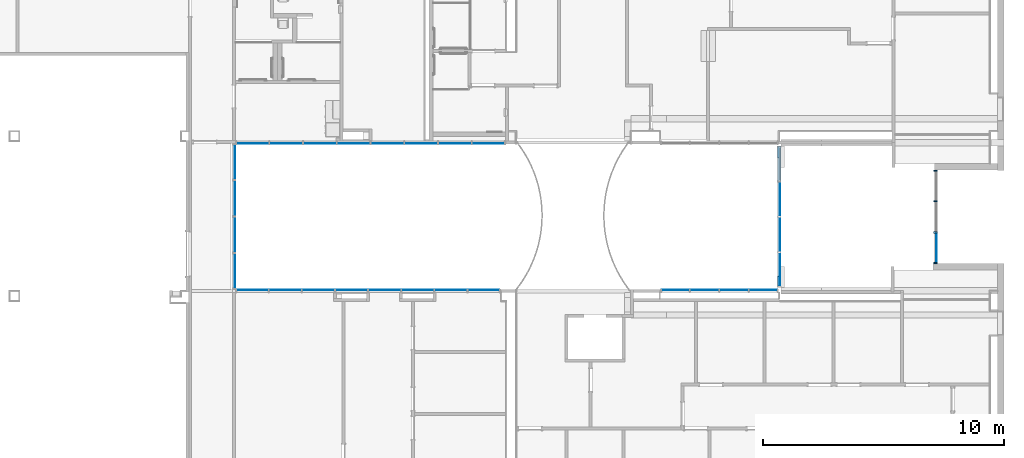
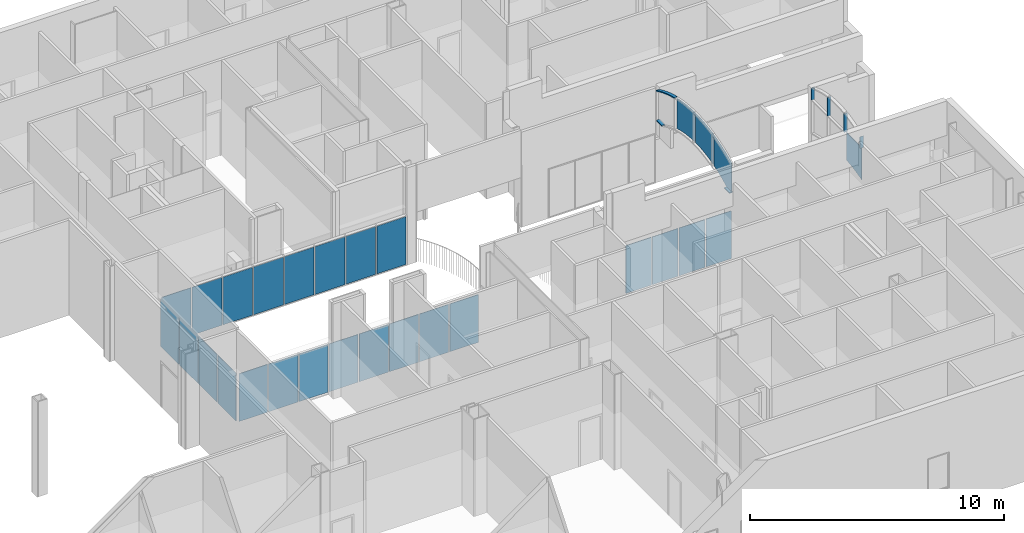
# One storey, part 4 of 45: 28 plates, 7 members, 6 elements without a shape of their own.
"""IFC2X3 building model written with IfcOpenShell, lengths in metres."""

from ifc_helpers import new_model, entity, si_unit, converted_unit, frame, frame_2d, origin, origin_2d_with_axis, place, context, project, spatial, polyline, circle_curve, parameter, trimmed, segment, composite_curve, rectangle, outline, extrude, source, transform, mapped, material, type_object, type_shapes, element, aggregate, save


model = new_model("IFC2X3")

# Units and contexts
model_context = context("Model", 3, precision=1e-09, world=origin())
plan_context = context("Plan", 3, precision=1e-09, world=origin())
ifc_project = project(units=[si_unit("LENGTHUNIT", "METRE"), si_unit("AREAUNIT", "SQUARE_METRE"), si_unit("VOLUMEUNIT", "CUBIC_METRE"), converted_unit("PLANEANGLEUNIT", "DEGREE", entity("IfcRatioMeasure", 0.01745329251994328), si_unit("PLANEANGLEUNIT", "RADIAN"), dimensions=[0, 0, 0, 0, 0, 0, 0]), si_unit("TIMEUNIT", "SECOND")], contexts=[model_context, plan_context])

# Site, building, storey
site_placement = place(None, origin())
site = spatial("IfcSite", under=ifc_project, at=site_placement, Name="Default", CompositionType="ELEMENT")
building_placement = place(site_placement, origin())
building = spatial("IfcBuilding", under=site, at=building_placement, CompositionType="ELEMENT")
storey_placement = place(building_placement, frame((0.0, 0.0, 4.570000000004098)))
storey = spatial("IfcBuildingStorey", under=building, at=storey_placement, Name="Second Floor", CompositionType="ELEMENT", Elevation=4.570000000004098)

# Curtain wall, member
curtain_wall_1_placement = place(storey_placement, origin())
curtain_wall_1 = element("IfcCurtainWall", 1, at=curtain_wall_1_placement, inside=storey, Name="Curtain Wall:Storefront", ObjectType="Curtain Wall:Storefront")
ifc_material_1 = material(Name="Metal - Aluminium")
member_type_1 = type_object("IfcMemberType", Name="50 x 150mm", PredefinedType="MULLION")
shared_shape_1 = source(origin(), model_context, "Body", "SweptSolid", [
    extrude(outline(polyline([(-0.2900392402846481, -0.025), (0.2739732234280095, -0.025), (0.2739732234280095, 0.025), (-0.2579072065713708, 0.025), (-0.2900392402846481, -0.025)])), frame((-0.025, -0.07499999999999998, -0.2900392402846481), z_axis=(0.0, 1.0, 0.0), x_axis=(0.0, 0.0, -1.0)), (0.0, 0.0, 1.0), 0.15),
])
type_shapes(member_type_1, [shared_shape_1])
member_1_placement = place(storey_placement, frame((-2.454499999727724, 33.62999999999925, 2.964012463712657), z_axis=(0.0, 0.0, 1.0), x_axis=(0.0, 1.0, 0.0)))
member_1 = element("IfcMember", 2, at=member_1_placement, type_object=member_type_1, material=ifc_material_1, Name="Rectangular Mullion:50 x 150mm:50 x 150mm", ObjectType="50 x 150mm", context=model_context, shape_type="MappedRepresentation", body=[
    mapped(shared_shape_1, transform((0.0, 0.0, 0.0), scale=1.0)),
])

# Curtain wall, members
curtain_wall_2_placement = place(storey_placement, origin())
curtain_wall_2 = element("IfcCurtainWall", 3, at=curtain_wall_2_placement, inside=storey, Name="Curtain Wall:Storefront", ObjectType="Curtain Wall:Storefront")
member_type_2 = type_object("IfcMemberType", Name="50 x 150mm", PredefinedType="MULLION")
shared_shape_2 = source(origin(), model_context, "Body", "SweptSolid", [
    extrude(outline(composite_curve([segment(trimmed(circle_curve(frame_2d((5.012852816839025, 3.985204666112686), x_axis=(-0.7029639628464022, -0.7112254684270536)), 6.475000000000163), [parameter(346.1634926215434)], [parameter(359.9999999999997)], True, "PARAMETER"), True, "CONTINUOUS"), segment(polyline([(0.4611611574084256, -0.6199802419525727), (0.4963093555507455, -0.5844189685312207)]), True, "CONTINUOUS"), segment(trimmed(circle_curve(frame_2d((5.012852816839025, 3.985204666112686), x_axis=(-0.7029639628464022, -0.7112254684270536)), 6.425000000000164), [parameter(346.4371113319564)], [parameter(359.9999999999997)], True, "PARAMETER"), False, "CONTINUOUS"), segment(polyline([(-0.4493721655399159, 0.6021996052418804), (-0.508098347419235, 0.6021996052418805)]), True, "CONTINUOUS")], self_intersect=False)), frame((-0.1167660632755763, -0.07499999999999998, -0.7638133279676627), z_axis=(0.0, -1.0, 0.0), x_axis=(-0.7029639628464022, 0.0, 0.7112254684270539)), (0.0, 0.0, -1.0), 0.15),
])
type_shapes(member_type_2, [shared_shape_2])
member_2_placement = place(storey_placement, frame((-8.94599995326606, 33.16499999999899, 5.054744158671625), z_axis=(0.0, -0.9737099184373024, 0.2277915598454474), x_axis=(0.0, 0.2277915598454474, 0.9737099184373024)))
member_2 = element("IfcMember", 4, at=member_2_placement, type_object=member_type_2, material=ifc_material_1, Name="Rectangular Mullion:50 x 150mm:50 x 150mm", ObjectType="50 x 150mm", context=model_context, shape_type="MappedRepresentation", body=[
    mapped(shared_shape_2, transform((0.0, 0.0, 0.0), scale=1.0)),
])
member_type_3 = type_object("IfcMemberType", Name="50 x 150mm", PredefinedType="MULLION")
shared_shape_3 = source(origin(), model_context, "Body", "SweptSolid", [
    extrude(outline(polyline([(-0.218101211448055, -0.025), (0.2246902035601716, -0.025), (0.2115122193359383, 0.025), (-0.218101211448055, 0.025), (-0.218101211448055, -0.025)])), frame((-0.025, -0.07499999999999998, -0.2181012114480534), z_axis=(0.0, 1.0, 0.0), x_axis=(0.0, 0.0, -1.0)), (0.0, 0.0, 1.0), 0.15),
])
type_shapes(member_type_3, [shared_shape_3])
member_3_placement = place(storey_placement, frame((-8.945999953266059, 34.57999999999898, 3.069999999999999), z_axis=(0.0, 1.0, 0.0), x_axis=(0.0, 0.0, -1.0)))
member_3 = element("IfcMember", 5, at=member_3_placement, type_object=member_type_3, material=ifc_material_1, Name="Rectangular Mullion:50 x 150mm:50 x 150mm", ObjectType="50 x 150mm", context=model_context, shape_type="MappedRepresentation", body=[
    mapped(shared_shape_3, transform((0.0, 0.0, 0.0), scale=1.0)),
])

# Member
member_type_4 = type_object("IfcMemberType", Name="50 x 150mm", PredefinedType="MULLION")
shared_shape_4 = source(origin(), model_context, "Body", "SweptSolid", [
    extrude(outline(composite_curve([segment(polyline([(-0.5935817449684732, -0.02881412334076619), (0.2924211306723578, -0.02881412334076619)]), True, "CONTINUOUS"), segment(trimmed(circle_curve(frame_2d((-4.266306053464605, 0.6411858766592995), x_axis=(0.9096200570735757, -0.4154411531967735)), 4.607699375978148), [parameter(16.18614893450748)], [parameter(16.58717889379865)], True, "PARAMETER"), True, "CONTINUOUS"), segment(polyline([(0.2969989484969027, 0.00310986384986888), (0.2982534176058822, 0.01214662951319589)]), True, "CONTINUOUS"), segment(polyline([(0.2982534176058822, 0.01214662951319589), (0.2994899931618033, 0.02118587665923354)]), True, "CONTINUOUS"), segment(polyline([(0.2994899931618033, 0.02118587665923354), (-0.5935817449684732, 0.02118587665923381)]), True, "CONTINUOUS"), segment(polyline([(-0.5935817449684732, 0.02118587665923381), (-0.5935817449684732, -0.02881412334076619)]), True, "CONTINUOUS")], self_intersect=False)), frame((-0.003814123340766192, -0.07499999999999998, -0.5935817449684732), z_axis=(0.0, 1.0, 0.0), x_axis=(0.0, 0.0, -1.0)), (0.0, 0.0, 1.0), 0.15),
])
type_shapes(member_type_4, [shared_shape_4])
member_4_placement = place(storey_placement, frame((-2.454499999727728, 31.04999999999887, 2.399999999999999), z_axis=(0.0, 0.0, -1.0), x_axis=(0.0, -1.0, 0.0)))
member_4 = element("IfcMember", 6, at=member_4_placement, type_object=member_type_4, material=ifc_material_1, Name="Rectangular Mullion:50 x 150mm:50 x 150mm", ObjectType="50 x 150mm", context=model_context, shape_type="MappedRepresentation", body=[
    mapped(shared_shape_4, transform((0.0, 0.0, 0.0), scale=1.0)),
])

member_type_5 = type_object("IfcMemberType", Name="50 x 150mm", PredefinedType="MULLION")
shared_shape_5 = source(origin(), model_context, "Body", "SweptSolid", [
    extrude(outline(composite_curve([segment(polyline([(-0.5929958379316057, -0.02535299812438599), (0.3000759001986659, -0.02535299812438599)]), True, "CONTINUOUS"), segment(trimmed(circle_curve(frame_2d((-4.265720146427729, -0.6453529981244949), x_axis=(0.9903651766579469, -0.1384803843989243)), 4.607699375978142), [parameter(15.69294883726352)], [parameter(15.91984435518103)], True, "PARAMETER"), True, "CONTINUOUS"), segment(polyline([(0.297584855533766, -0.007276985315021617), (0.2953238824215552, 0.008688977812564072)]), True, "CONTINUOUS"), segment(polyline([(0.2953238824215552, 0.008688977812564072), (0.2930070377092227, 0.02464700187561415)]), True, "CONTINUOUS"), segment(polyline([(0.2930070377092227, 0.02464700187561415), (-0.5929958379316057, 0.02464700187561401)]), True, "CONTINUOUS"), segment(polyline([(-0.5929958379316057, 0.02464700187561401), (-0.5929958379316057, -0.02535299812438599)]), True, "CONTINUOUS")], self_intersect=False)), frame((-0.0003529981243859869, -0.07499999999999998, -0.5929958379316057), z_axis=(0.0, 1.0, 0.0), x_axis=(0.0, 0.0, -1.0)), (0.0, 0.0, 1.0), 0.15),
])
type_shapes(member_type_5, [shared_shape_5])
member_5_placement = place(storey_placement, frame((-2.454499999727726, 32.33999999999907, 2.399999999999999), z_axis=(0.0, 0.0, -1.0), x_axis=(0.0, -1.0, 0.0)))
member_5 = element("IfcMember", 7, at=member_5_placement, type_object=member_type_5, material=ifc_material_1, Name="Rectangular Mullion:50 x 150mm:50 x 150mm", ObjectType="50 x 150mm", context=model_context, shape_type="MappedRepresentation", body=[
    mapped(shared_shape_5, transform((0.0, 0.0, 0.0), scale=1.0)),
])

member_type_6 = type_object("IfcMemberType", Name="50 x 150mm", PredefinedType="MULLION")
shared_shape_6 = source(origin(), model_context, "Body", "SweptSolid", [
    extrude(outline(polyline([(-0.2739732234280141, -0.025), (0.290039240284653, -0.025), (0.2579072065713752, 0.025), (-0.2739732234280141, 0.025), (-0.2739732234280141, -0.025)])), frame((-0.025, -0.07499999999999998, -0.2739732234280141), z_axis=(0.0, 1.0, 0.0), x_axis=(0.0, 0.0, -1.0)), (0.0, 0.0, 1.0), 0.15),
])
type_shapes(member_type_6, [shared_shape_6])
member_6_placement = place(storey_placement, frame((-2.45449999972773, 29.75999999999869, 2.399999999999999), z_axis=(0.0, 0.0, -1.0), x_axis=(0.0, -1.0, 0.0)))
member_6 = element("IfcMember", 8, at=member_6_placement, type_object=member_type_6, material=ifc_material_1, Name="Rectangular Mullion:50 x 150mm:50 x 150mm", ObjectType="50 x 150mm", context=model_context, shape_type="MappedRepresentation", body=[
    mapped(shared_shape_6, transform((0.0, 0.0, 0.0), scale=1.0)),
])

member_type_7 = type_object("IfcMemberType", Name="50 x 150mm", PredefinedType="MULLION")
shared_shape_7 = source(origin(), model_context, "Body", "SweptSolid", [
    extrude(outline(polyline([(-0.2147398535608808, -0.025), (0.2081508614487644, -0.025), (0.2081508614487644, 0.025), (-0.2015618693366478, 0.025), (-0.2147398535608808, -0.025)])), frame((-0.025, -0.07499999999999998, -0.2147398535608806), z_axis=(0.0, 1.0, 0.0), x_axis=(0.0, 0.0, -1.0)), (0.0, 0.0, 1.0), 0.15),
])
type_shapes(member_type_7, [shared_shape_7])
member_7_placement = place(storey_placement, frame((-8.945999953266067, 29.24289071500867, 3.070000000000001), z_axis=(0.0, 1.0, 0.0), x_axis=(0.0, 0.0, -1.0)))
member_7 = element("IfcMember", 9, at=member_7_placement, type_object=member_type_7, material=ifc_material_1, Name="Rectangular Mullion:50 x 150mm:50 x 150mm", ObjectType="50 x 150mm", context=model_context, shape_type="MappedRepresentation", body=[
    mapped(shared_shape_7, transform((0.0, 0.0, 0.0), scale=1.0)),
])

# Curtain wall, plates
curtain_wall_3_placement = place(storey_placement, origin())
curtain_wall_3 = element("IfcCurtainWall", 10, at=curtain_wall_3_placement, inside=storey, Name="Curtain Wall:Storefront", ObjectType="Curtain Wall:Storefront")
ifc_material_2 = material(Name="Glass")
plate_type_1 = type_object("IfcPlateType", Name="Glazed", PredefinedType="CURTAIN_PANEL")
shared_shape_8 = source(origin(), model_context, "Body", "SweptSolid", [
    extrude(rectangle(XDim=0.025, YDim=1.349875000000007, at=origin_2d_with_axis()), frame((0.0, 0.03700000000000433, 0.0), z_axis=(0.0, 0.0, 1.0), x_axis=(0.0, 1.0, 0.0)), (0.0, 0.0, 1.0), 2.3),
])
type_shapes(plate_type_1, [shared_shape_8])
plate_1_placement = place(storey_placement, frame((-27.98931250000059, 34.77180159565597, 0.05), z_axis=(0.0, 0.0, 1.0), x_axis=(-1.0, 0.0, 0.0)))
plate_1 = element("IfcPlate", 11, at=plate_1_placement, type_object=plate_type_1, material=ifc_material_2, Name="System Panel:Glazed:Glazed", ObjectType="Glazed", context=model_context, shape_type="MappedRepresentation", body=[
    mapped(shared_shape_8, transform((0.0, 0.0, 0.0), scale=1.0)),
])
plate_2_placement = place(storey_placement, frame((-29.3891875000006, 34.77180159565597, 0.05), z_axis=(0.0, 0.0, 1.0), x_axis=(-1.0, 0.0, 0.0)))
plate_2 = element("IfcPlate", 12, at=plate_2_placement, type_object=plate_type_1, material=ifc_material_2, Name="System Panel:Glazed:Glazed", ObjectType="Glazed", context=model_context, shape_type="MappedRepresentation", body=[
    mapped(shared_shape_8, transform((0.0, 0.0, 0.0), scale=1.0)),
])
plate_3_placement = place(storey_placement, frame((-23.78968750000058, 34.77180159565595, 0.05), z_axis=(0.0, 0.0, 1.0), x_axis=(-1.0, 0.0, 0.0)))
plate_3 = element("IfcPlate", 13, at=plate_3_placement, type_object=plate_type_1, material=ifc_material_2, Name="System Panel:Glazed:Glazed", ObjectType="Glazed", context=model_context, shape_type="MappedRepresentation", body=[
    mapped(shared_shape_8, transform((0.0, 0.0, 0.0), scale=1.0)),
])
plate_4_placement = place(storey_placement, frame((-22.38981250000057, 34.77180159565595, 0.05), z_axis=(0.0, 0.0, 1.0), x_axis=(-1.0, 0.0, 0.0)))
plate_4 = element("IfcPlate", 14, at=plate_4_placement, type_object=plate_type_1, material=ifc_material_2, Name="System Panel:Glazed:Glazed", ObjectType="Glazed", context=model_context, shape_type="MappedRepresentation", body=[
    mapped(shared_shape_8, transform((0.0, 0.0, 0.0), scale=1.0)),
])
plate_5_placement = place(storey_placement, frame((-26.58943750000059, 34.77180159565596, 0.05), z_axis=(0.0, 0.0, 1.0), x_axis=(-1.0, 0.0, 0.0)))
plate_5 = element("IfcPlate", 15, at=plate_5_placement, type_object=plate_type_1, material=ifc_material_2, Name="System Panel:Glazed:Glazed", ObjectType="Glazed", context=model_context, shape_type="MappedRepresentation", body=[
    mapped(shared_shape_8, transform((0.0, 0.0, 0.0), scale=1.0)),
])
plate_6_placement = place(storey_placement, frame((-25.18956250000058, 34.77180159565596, 0.05), z_axis=(0.0, 0.0, 1.0), x_axis=(-1.0, 0.0, 0.0)))
plate_6 = element("IfcPlate", 16, at=plate_6_placement, type_object=plate_type_1, material=ifc_material_2, Name="System Panel:Glazed:Glazed", ObjectType="Glazed", context=model_context, shape_type="MappedRepresentation", body=[
    mapped(shared_shape_8, transform((0.0, 0.0, 0.0), scale=1.0)),
])

curtain_wall_4_placement = place(storey_placement, origin())
curtain_wall_4 = element("IfcCurtainWall", 17, at=curtain_wall_4_placement, inside=storey, Name="Curtain Wall:Storefront", ObjectType="Curtain Wall:Storefront")
plate_type_2 = type_object("IfcPlateType", Name="Glazed", PredefinedType="CURTAIN_PANEL")
shared_shape_9 = source(origin(), model_context, "Body", "SweptSolid", [
    extrude(rectangle(XDim=0.02500000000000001, YDim=1.323875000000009, at=origin_2d_with_axis()), frame((0.0, -0.03700000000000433, 0.0), z_axis=(0.0, 0.0, 1.0), x_axis=(0.0, 1.0, 0.0)), (0.0, 0.0, 1.0), 2.3),
])
type_shapes(plate_type_2, [shared_shape_9])
plate_7_placement = place(storey_placement, frame((-23.92968750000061, 28.62819840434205, 0.05), z_axis=(0.0, 0.0, 1.0), x_axis=(-1.0, 0.0, 0.0)))
plate_7 = element("IfcPlate", 18, at=plate_7_placement, type_object=plate_type_2, material=ifc_material_2, Name="System Panel:Glazed:Glazed", ObjectType="Glazed", context=model_context, shape_type="MappedRepresentation", body=[
    mapped(shared_shape_9, transform((0.0, 0.0, 0.0), scale=1.0)),
])
plate_8_placement = place(storey_placement, frame((-22.55581250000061, 28.62819840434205, 0.05), z_axis=(0.0, 0.0, 1.0), x_axis=(-1.0, 0.0, 0.0)))
plate_8 = element("IfcPlate", 19, at=plate_8_placement, type_object=plate_type_2, material=ifc_material_2, Name="System Panel:Glazed:Glazed", ObjectType="Glazed", context=model_context, shape_type="MappedRepresentation", body=[
    mapped(shared_shape_9, transform((0.0, 0.0, 0.0), scale=1.0)),
])
plate_9_placement = place(storey_placement, frame((-29.42518750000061, 28.62819840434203, 0.05), z_axis=(0.0, 0.0, 1.0), x_axis=(-1.0, 0.0, 0.0)))
plate_9 = element("IfcPlate", 20, at=plate_9_placement, type_object=plate_type_2, material=ifc_material_2, Name="System Panel:Glazed:Glazed", ObjectType="Glazed", context=model_context, shape_type="MappedRepresentation", body=[
    mapped(shared_shape_9, transform((0.0, 0.0, 0.0), scale=1.0)),
])
plate_10_placement = place(storey_placement, frame((-26.67743750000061, 28.62819840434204, 0.05), z_axis=(0.0, 0.0, 1.0), x_axis=(-1.0, 0.0, 0.0)))
plate_10 = element("IfcPlate", 21, at=plate_10_placement, type_object=plate_type_2, material=ifc_material_2, Name="System Panel:Glazed:Glazed", ObjectType="Glazed", context=model_context, shape_type="MappedRepresentation", body=[
    mapped(shared_shape_9, transform((0.0, 0.0, 0.0), scale=1.0)),
])
plate_11_placement = place(storey_placement, frame((-25.30356250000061, 28.62819840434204, 0.05), z_axis=(0.0, 0.0, 1.0), x_axis=(-1.0, 0.0, 0.0)))
plate_11 = element("IfcPlate", 22, at=plate_11_placement, type_object=plate_type_2, material=ifc_material_2, Name="System Panel:Glazed:Glazed", ObjectType="Glazed", context=model_context, shape_type="MappedRepresentation", body=[
    mapped(shared_shape_9, transform((0.0, 0.0, 0.0), scale=1.0)),
])
plate_12_placement = place(storey_placement, frame((-28.05131250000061, 28.62819840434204, 0.05), z_axis=(0.0, 0.0, 1.0), x_axis=(-1.0, 0.0, 0.0)))
plate_12 = element("IfcPlate", 23, at=plate_12_placement, type_object=plate_type_2, material=ifc_material_2, Name="System Panel:Glazed:Glazed", ObjectType="Glazed", context=model_context, shape_type="MappedRepresentation", body=[
    mapped(shared_shape_9, transform((0.0, 0.0, 0.0), scale=1.0)),
])

curtain_wall_5_placement = place(storey_placement, origin())
curtain_wall_5 = element("IfcCurtainWall", 24, at=curtain_wall_5_placement, inside=storey, Name="Curtain Wall:Storefront", ObjectType="Curtain Wall:Storefront")
plate_type_3 = type_object("IfcPlateType", Name="Glazed", PredefinedType="CURTAIN_PANEL")
shared_shape_10 = source(origin(), model_context, "Body", "SweptSolid", [
    extrude(rectangle(XDim=0.025, YDim=1.436041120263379, at=origin_2d_with_axis()), frame((0.0, 0.03699999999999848, 0.0), z_axis=(0.0, 0.0, 1.0), x_axis=(0.0, 1.0, 0.0)), (0.0, 0.0, 1.0), 2.3),
])
type_shapes(plate_type_3, [shared_shape_10])
plate_13_placement = place(storey_placement, frame((-31.55100000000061, 29.45821896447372, 0.05), z_axis=(0.0, 0.0, 1.0), x_axis=(0.0, -1.0, 0.0)))
plate_13 = element("IfcPlate", 25, at=plate_13_placement, type_object=plate_type_3, material=ifc_material_2, Name="System Panel:Glazed:Glazed", ObjectType="Glazed", context=model_context, shape_type="MappedRepresentation", body=[
    mapped(shared_shape_10, transform((0.0, 0.0, 0.0), scale=1.0)),
])
plate_14_placement = place(storey_placement, frame((-31.5510000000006, 33.96634232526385, 0.05), z_axis=(0.0, 0.0, 1.0), x_axis=(0.0, -1.0, 0.0)))
plate_14 = element("IfcPlate", 26, at=plate_14_placement, type_object=plate_type_3, material=ifc_material_2, Name="System Panel:Glazed:Glazed", ObjectType="Glazed", context=model_context, shape_type="MappedRepresentation", body=[
    mapped(shared_shape_10, transform((0.0, 0.0, 0.0), scale=1.0)),
])
plate_type_4 = type_object("IfcPlateType", Name="Glazed", PredefinedType="CURTAIN_PANEL")
shared_shape_11 = source(origin(), model_context, "Body", "SweptSolid", [
    extrude(rectangle(XDim=0.025, YDim=1.461041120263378, at=origin_2d_with_axis()), frame((0.0, 0.03700000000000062, 0.0), z_axis=(0.0, 0.0, 1.0), x_axis=(0.0, 1.0, 0.0)), (0.0, 0.0, 1.0), 2.3),
])
type_shapes(plate_type_4, [shared_shape_11])
plate_15_placement = place(storey_placement, frame((-31.55100000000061, 30.9567600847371, 0.05), z_axis=(0.0, 0.0, 1.0), x_axis=(0.0, -1.0, 0.0)))
plate_15 = element("IfcPlate", 27, at=plate_15_placement, type_object=plate_type_4, material=ifc_material_2, Name="System Panel:Glazed:Glazed", ObjectType="Glazed", context=model_context, shape_type="MappedRepresentation", body=[
    mapped(shared_shape_11, transform((0.0, 0.0, 0.0), scale=1.0)),
])
plate_16_placement = place(storey_placement, frame((-31.55100000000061, 32.46780120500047, 0.05), z_axis=(0.0, 0.0, 1.0), x_axis=(0.0, -1.0, 0.0)))
plate_16 = element("IfcPlate", 28, at=plate_16_placement, type_object=plate_type_4, material=ifc_material_2, Name="System Panel:Glazed:Glazed", ObjectType="Glazed", context=model_context, shape_type="MappedRepresentation", body=[
    mapped(shared_shape_11, transform((0.0, 0.0, 0.0), scale=1.0)),
])
aggregate(curtain_wall_5, [plate_13, plate_15, plate_16, plate_14])

# Plate
plate_type_5 = type_object("IfcPlateType", Name="Glazed", PredefinedType="CURTAIN_PANEL")
shared_shape_12 = source(origin(), model_context, "Body", "SweptSolid", [
    extrude(rectangle(XDim=0.025, YDim=1.324875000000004, at=origin_2d_with_axis()), frame((0.0, 0.03700000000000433, 0.0), z_axis=(0.0, 0.0, 1.0), x_axis=(0.0, 1.0, 0.0)), (0.0, 0.0, 1.0), 2.3),
])
type_shapes(plate_type_5, [shared_shape_12])
plate_17_placement = place(storey_placement, frame((-30.7765625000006, 34.77180159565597, 0.05), z_axis=(0.0, 0.0, 1.0), x_axis=(-1.0, 0.0, 0.0)))
plate_17 = element("IfcPlate", 29, at=plate_17_placement, type_object=plate_type_5, material=ifc_material_2, Name="System Panel:Glazed:Glazed", ObjectType="Glazed", context=model_context, shape_type="MappedRepresentation", body=[
    mapped(shared_shape_12, transform((0.0, 0.0, 0.0), scale=1.0)),
])

plate_18_placement = place(storey_placement, frame((-21.00243750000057, 34.77180159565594, 0.05), z_axis=(0.0, 0.0, 1.0), x_axis=(-1.0, 0.0, 0.0)))
plate_18 = element("IfcPlate", 30, at=plate_18_placement, type_object=plate_type_5, material=ifc_material_2, Name="System Panel:Glazed:Glazed", ObjectType="Glazed", context=model_context, shape_type="MappedRepresentation", body=[
    mapped(shared_shape_12, transform((0.0, 0.0, 0.0), scale=1.0)),
])

aggregate(curtain_wall_3, [plate_17, plate_1, plate_2, plate_3, plate_18, plate_4, plate_5, plate_6])

# Curtain wall, plates
curtain_wall_6_placement = place(storey_placement, origin())
curtain_wall_6 = element("IfcCurtainWall", 31, at=curtain_wall_6_placement, inside=storey, Name="Curtain Wall:Storefront", ObjectType="Curtain Wall:Storefront")
plate_type_6 = type_object("IfcPlateType", Name="Glazed", PredefinedType="CURTAIN_PANEL")
shared_shape_13 = source(origin(), model_context, "Body", "SweptSolid", [
    extrude(rectangle(XDim=0.02500000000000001, YDim=1.172693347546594, at=origin_2d_with_axis()), frame((0.0, -0.037, 0.0), z_axis=(0.0, 0.0, 1.0), x_axis=(0.0, 1.0, 0.0)), (0.0, 0.0, 1.0), 2.3),
])
type_shapes(plate_type_6, [shared_shape_13])
plate_19_placement = place(storey_placement, frame((-10.8157666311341, 28.62819840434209, 0.05), z_axis=(0.0, 0.0, 1.0), x_axis=(-1.0, 0.0, 0.0)))
plate_19 = element("IfcPlate", 32, at=plate_19_placement, type_object=plate_type_6, material=ifc_material_2, Name="System Panel:Glazed:Glazed", ObjectType="Glazed", context=model_context, shape_type="MappedRepresentation", body=[
    mapped(shared_shape_13, transform((0.0, 0.0, 0.0), scale=1.0)),
])
plate_20_placement = place(storey_placement, frame((-12.0384599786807, 28.62819840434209, 0.05), z_axis=(0.0, 0.0, 1.0), x_axis=(-1.0, 0.0, 0.0)))
plate_20 = element("IfcPlate", 33, at=plate_20_placement, type_object=plate_type_6, material=ifc_material_2, Name="System Panel:Glazed:Glazed", ObjectType="Glazed", context=model_context, shape_type="MappedRepresentation", body=[
    mapped(shared_shape_13, transform((0.0, 0.0, 0.0), scale=1.0)),
])

# Plate
plate_type_7 = type_object("IfcPlateType", Name="Glazed", PredefinedType="CURTAIN_PANEL")
shared_shape_14 = source(origin(), model_context, "Body", "SweptSolid", [
    extrude(rectangle(XDim=0.02500000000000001, YDim=1.298875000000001, at=origin_2d_with_axis()), frame((0.0, -0.037, 0.0), z_axis=(0.0, 0.0, 1.0), x_axis=(0.0, 1.0, 0.0)), (0.0, 0.0, 1.0), 2.3),
])
type_shapes(plate_type_7, [shared_shape_14])
plate_21_placement = place(storey_placement, frame((-30.78656250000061, 28.62819840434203, 0.05), z_axis=(0.0, 0.0, 1.0), x_axis=(-1.0, 0.0, 0.0)))
plate_21 = element("IfcPlate", 34, at=plate_21_placement, type_object=plate_type_7, material=ifc_material_2, Name="System Panel:Glazed:Glazed", ObjectType="Glazed", context=model_context, shape_type="MappedRepresentation", body=[
    mapped(shared_shape_14, transform((0.0, 0.0, 0.0), scale=1.0)),
])

plate_22_placement = place(storey_placement, frame((-21.1944375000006, 28.62819840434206, 0.05), z_axis=(0.0, 0.0, 1.0), x_axis=(-1.0, 0.0, 0.0)))
plate_22 = element("IfcPlate", 35, at=plate_22_placement, type_object=plate_type_7, material=ifc_material_2, Name="System Panel:Glazed:Glazed", ObjectType="Glazed", context=model_context, shape_type="MappedRepresentation", body=[
    mapped(shared_shape_14, transform((0.0, 0.0, 0.0), scale=1.0)),
])

aggregate(curtain_wall_4, [plate_7, plate_8, plate_9, plate_21, plate_10, plate_11, plate_22, plate_12])

plate_type_8 = type_object("IfcPlateType", Name="Glazed", PredefinedType="CURTAIN_PANEL")
shared_shape_15 = source(origin(), model_context, "Body", "SweptSolid", [
    extrude(rectangle(XDim=0.02500000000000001, YDim=1.147693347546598, at=origin_2d_with_axis()), frame((0.0, -0.037, 0.0), z_axis=(0.0, 0.0, 1.0), x_axis=(0.0, 1.0, 0.0)), (0.0, 0.0, 1.0), 2.3),
])
type_shapes(plate_type_8, [shared_shape_15])
plate_23_placement = place(storey_placement, frame((-13.2486533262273, 28.62819840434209, 0.05), z_axis=(0.0, 0.0, 1.0), x_axis=(-1.0, 0.0, 0.0)))
plate_23 = element("IfcPlate", 36, at=plate_23_placement, type_object=plate_type_8, material=ifc_material_2, Name="System Panel:Glazed:Glazed", ObjectType="Glazed", context=model_context, shape_type="MappedRepresentation", body=[
    mapped(shared_shape_15, transform((0.0, 0.0, 0.0), scale=1.0)),
])

plate_24_placement = place(storey_placement, frame((-9.605573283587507, 28.6281984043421, 0.05), z_axis=(0.0, 0.0, 1.0), x_axis=(-1.0, 0.0, 0.0)))
plate_24 = element("IfcPlate", 37, at=plate_24_placement, type_object=plate_type_8, material=ifc_material_2, Name="System Panel:Glazed:Glazed", ObjectType="Glazed", context=model_context, shape_type="MappedRepresentation", body=[
    mapped(shared_shape_15, transform((0.0, 0.0, 0.0), scale=1.0)),
])

aggregate(curtain_wall_6, [plate_19, plate_23, plate_20, plate_24])

plate_type_9 = type_object("IfcPlateType", Name="Glazed", PredefinedType="CURTAIN_PANEL")
shared_shape_16 = source(origin(), model_context, "Body", "SweptSolid", [
    extrude(outline(composite_curve([segment(trimmed(circle_curve(frame_2d((-5.627644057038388, 0.7225496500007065), x_axis=(0.9999979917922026, 0.00200409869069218)), 5.015000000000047), [parameter(343.3170915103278)], [parameter(359.7132328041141)], True, "PARAMETER"), False, "CONTINUOUS"), segment(polyline([(-0.8208589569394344, -0.7075000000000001), (0.6361872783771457, -0.7075000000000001)]), True, "CONTINUOUS"), segment(trimmed(circle_curve(frame_2d((-5.627644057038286, 0.7225496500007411), x_axis=(0.9744238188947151, -0.2247180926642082)), 6.424999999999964), [parameter(0.125933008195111)], [parameter(12.85209420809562)], True, "PARAMETER"), True, "CONTINUOUS"), segment(polyline([(0.7973383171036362, 0.7074999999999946), (-0.6126666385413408, 0.7074999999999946)]), True, "CONTINUOUS")], self_intersect=False)), frame((0.0, 0.02450000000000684, 0.820858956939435), z_axis=(0.0, -1.0, 0.0), x_axis=(0.0, 0.0, 1.0)), (0.0, 0.0, -1.0), 0.02499999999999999),
])
type_shapes(plate_type_9, [shared_shape_16])
plate_25_placement = place(storey_placement, frame((-8.945999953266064, 30.96749999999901, 3.556757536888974), z_axis=(0.0, 0.0, 1.0), x_axis=(0.0, -1.0, 0.0)))
plate_25 = element("IfcPlate", 38, at=plate_25_placement, type_object=plate_type_9, material=ifc_material_2, Name="System Panel:Glazed:Glazed", ObjectType="Glazed", context=model_context, shape_type="MappedRepresentation", body=[
    mapped(shared_shape_16, transform((0.0, 0.0, 0.0), scale=1.0)),
])

plate_type_10 = type_object("IfcPlateType", Name="Glazed", PredefinedType="CURTAIN_PANEL")
shared_shape_17 = source(origin(), model_context, "Body", "SweptSolid", [
    extrude(outline(composite_curve([segment(polyline([(-0.8241447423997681, -0.7074999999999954), (0.634290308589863, -0.7074999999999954)]), True, "CONTINUOUS"), segment(trimmed(circle_curve(frame_2d((-5.624964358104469, 0.7424503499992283), x_axis=(0.9999988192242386, -0.001536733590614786)), 6.424999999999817), [parameter(347.0455801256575)], [parameter(359.7763725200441)], True, "PARAMETER"), True, "CONTINUOUS"), segment(polyline([(0.7999405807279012, 0.7074999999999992), (-0.6100861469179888, 0.7074999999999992)]), True, "CONTINUOUS"), segment(trimmed(circle_curve(frame_2d((-5.624964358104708, 0.7424503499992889), x_axis=(0.9548558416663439, -0.2970695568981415)), 5.015000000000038), [parameter(0.4762378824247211)], [parameter(16.88237181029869)], True, "PARAMETER"), False, "CONTINUOUS")], self_intersect=False)), frame((0.0, 0.02450000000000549, 0.8241447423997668), z_axis=(0.0, 1.0, 0.0), x_axis=(0.0, 0.0, 1.0)), (0.0, 0.0, 1.0), 0.025),
])
type_shapes(plate_type_10, [shared_shape_17])
plate_26_placement = place(storey_placement, frame((-8.94599995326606, 32.432499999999, 3.550792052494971), z_axis=(0.0, 0.0, 1.0), x_axis=(0.0, -1.0, 0.0)))
plate_26 = element("IfcPlate", 39, at=plate_26_placement, type_object=plate_type_10, material=ifc_material_2, Name="System Panel:Glazed:Glazed", ObjectType="Glazed", context=model_context, shape_type="MappedRepresentation", body=[
    mapped(shared_shape_17, transform((0.0, 0.0, 0.0), scale=1.0)),
])

plate_type_11 = type_object("IfcPlateType", Name="Glazed", PredefinedType="CURTAIN_PANEL")
shared_shape_18 = source(origin(), model_context, "Body", "SweptSolid", [
    extrude(outline(composite_curve([segment(polyline([(-0.6037642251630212, -0.6075000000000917), (0.718885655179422, -0.6075000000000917)]), True, "CONTINUOUS"), segment(polyline([(0.718885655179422, -0.6075000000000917), (0.718885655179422, 0.6075000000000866)]), True, "CONTINUOUS"), segment(polyline([(0.718885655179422, 0.6075000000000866), (-0.8340070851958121, 0.6075000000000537)]), True, "CONTINUOUS"), segment(trimmed(circle_curve(frame_2d((-7.460299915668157, -1.277500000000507), x_axis=(0.9955429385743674, 0.09430937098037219)), 6.889193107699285), [parameter(0.169480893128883)], [parameter(10.46803908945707)], True, "PARAMETER"), False, "CONTINUOUS")], self_intersect=False)), frame((0.0, 0.02450000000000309, 0.8340070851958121), z_axis=(0.0, 1.0, 0.0), x_axis=(0.0, 0.0, 1.0)), (0.0, 0.0, 1.0), 0.025),
])
type_shapes(plate_type_11, [shared_shape_18])
plate_27_placement = place(storey_placement, frame((-2.454499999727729, 30.41749999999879, 0.8221072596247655), z_axis=(0.0, 0.0, 1.0), x_axis=(0.0, -1.0, 0.0)))
plate_27 = element("IfcPlate", 40, at=plate_27_placement, type_object=plate_type_11, material=ifc_material_2, Name="System Panel:Glazed:Glazed", ObjectType="Glazed", context=model_context, shape_type="MappedRepresentation", body=[
    mapped(shared_shape_18, transform((0.0, 0.0, 0.0), scale=1.0)),
])

aggregate(curtain_wall_1, [member_1, member_6, member_4, member_5, plate_27])

plate_type_12 = type_object("IfcPlateType", Name="Glazed", PredefinedType="CURTAIN_PANEL")
shared_shape_19 = source(origin(), model_context, "Body", "SweptSolid", [
    extrude(outline(composite_curve([segment(polyline([(-0.6372077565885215, -0.4339978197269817), (-0.5171264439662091, -0.8257552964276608)]), True, "CONTINUOUS"), segment(polyline([(-0.5171264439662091, -0.8257552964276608), (0.800671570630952, -0.4218244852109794)]), True, "CONTINUOUS"), segment(trimmed(circle_curve(frame_2d((-5.536382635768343, 0.6375946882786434), x_axis=(0.9855122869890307, -0.1696040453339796)), 6.425000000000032), [parameter(0.2739454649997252)], [parameter(13.48797753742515)], True, "PARAMETER"), True, "CONTINUOUS"), segment(polyline([(0.8750569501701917, 1.054808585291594), (-0.5213943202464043, 0.6267690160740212)]), True, "CONTINUOUS"), segment(trimmed(circle_curve(frame_2d((-5.536382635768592, 0.6375946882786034), x_axis=(1.0, 0.0)), 5.015000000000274), [parameter(347.6620511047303)], [parameter(359.8763178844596)], True, "PARAMETER"), False, "CONTINUOUS")], self_intersect=False)), frame((0.05705039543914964, 0.02450000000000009, 0.7364182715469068), z_axis=(0.0, -1.0, 0.0), x_axis=(0.2930613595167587, 0.0, 0.9560936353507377)), (0.0, 0.0, -1.0), 0.02499999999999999),
])
type_shapes(plate_type_12, [shared_shape_19])
plate_28_placement = place(storey_placement, frame((-8.945999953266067, 29.51499999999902, 3.119999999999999), z_axis=(0.0, 0.0, 1.0), x_axis=(0.0, -1.0, 0.0)))
plate_28 = element("IfcPlate", 41, at=plate_28_placement, type_object=plate_type_12, material=ifc_material_2, Name="System Panel:Glazed:Glazed", ObjectType="Glazed", context=model_context, shape_type="MappedRepresentation", body=[
    mapped(shared_shape_19, transform((0.0, 0.0, 0.0), scale=1.0)),
])

aggregate(curtain_wall_2, [member_7, member_3, member_2, plate_28, plate_26, plate_25])

save(model, "model.ifc")
